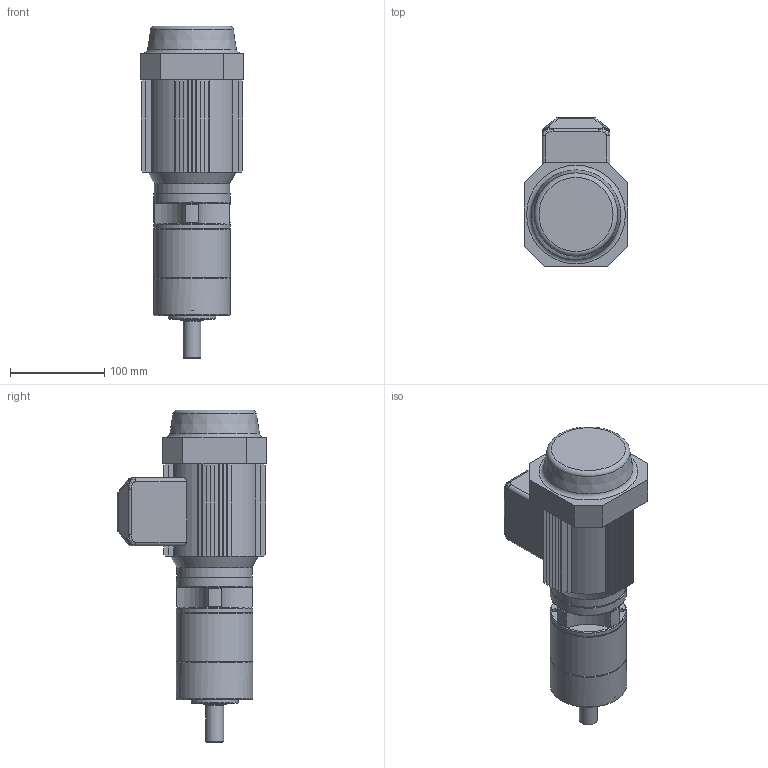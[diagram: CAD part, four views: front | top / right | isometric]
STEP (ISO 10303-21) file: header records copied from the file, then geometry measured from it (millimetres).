
FILE_DESCRIPTION((''),'2;1');
FILE_NAME('Y:\Archivi Inventor\Prog_16\Mep_80\Figurini\FIGURINI PER WEB\2s\Fig_MEP80_2s_PAM56B14.stp','2013-09-26T10:22:49',('tech3'),(''),'Autodesk Inventor 2013','Autodesk Inventor 2013','');
FILE_SCHEMA(('AUTOMOTIVE_DESIGN { 1 0 10303 214 1 1 1 1 }'));
Length unit declared in the file: millimetre
Products named in the file (11): Fig_MEP80_2S; Fig_1608001_B2; Fig_1608002_A0; Fig_1608003_A0; 1608004-A0; Fig_1608010_A1; 16108011-A1; PARAOLIO 25x40x7; UNI 5931 M 5 x  40; UNI 5931 M 5 x  45; motori B14 56
Assembly tree (17 placements, depth 2):
  Fig_MEP80_2S
    Fig_1608001_B2
    Fig_1608002_A0
    Fig_1608003_A0
    1608004-A0
    Fig_1608010_A1
    16108011-A1  x2
    PARAOLIO 25x40x7
    UNI 5931 M 5 x  40  x4
    UNI 5931 M 5 x  45  x4
    motori B14 56
Bounding box: 110 x 158 x 351.7 mm (x, y, z)
Volume: 2229916.9 mm3; surface area: 253658.6 mm2
Topology: 17 solids, 17 shells, 704 faces, 1759 edges, 1114 vertices
Faces by surface type: plane 398, cylinder 179, cone 69, bspline 32, torus 22, sphere 4
Full cylindrical faces by diameter (mm): 4.134 x12, 4.917 x5, 5 x16, 5.5 x24, 6 x4, 6.4 x1, 8.5 x8, 9 x9, 18.4 x1, 19 x1, 25 x1, 28.467 x1, 35 x1, 37.5 x1, 40 x2, 42 x2, 50 x3, 58.45 x6, 79.5 x2, 80 x1, 81 x4
Entity records: 19738 total; most frequent: CARTESIAN_POINT 5484, DIRECTION 2844, ORIENTED_EDGE 2664, EDGE_CURVE 1332, AXIS2_PLACEMENT_3D 1020, VERTEX_POINT 916, EDGE_LOOP 826, VECTOR 804
